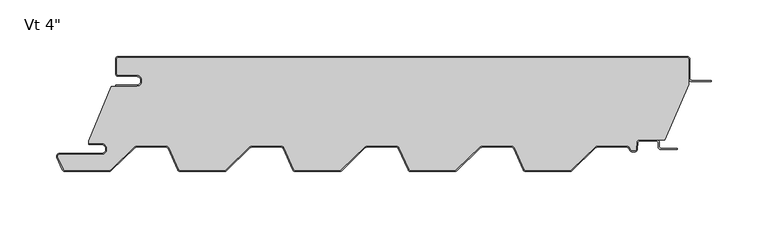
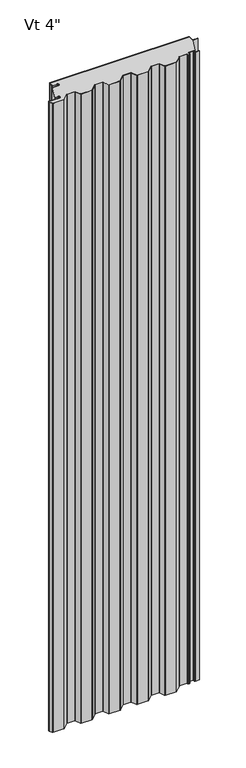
"""IFC4 building model written with IfcOpenShell, lengths in millimetres: plate geometry."""

from ifc_helpers import new_model, si_unit, point, frame_2d, origin, origin_with_axes, place, context, project, spatial, polyline, circle_curve, trimmed, segment, composite_curve, outline, extrude, source, transform, mapped, element, save


def plate_81f33b46(model_context):
    return source(origin(), model_context, "Body", "SweptSolid", [
        extrude(outline(composite_curve([segment(trimmed(circle_curve(frame_2d((-235.0437502, -21.4324412)), 4.96875), [point((-235.0437502, -26.4011912))], [point((-235.0437502, -16.4636912))], True, "CARTESIAN"), True, "CONTINUOUS"), segment(polyline([(-235.0437502, -16.4636912), (-250.9187502, -16.4636912)]), True, "CONTINUOUS"), segment(trimmed(circle_curve(frame_2d((-250.9187502, -15.0824412)), 1.38125), [point((-250.9187502, -16.4636912))], [point((-252.3000002, -15.0824412))], False, "CARTESIAN"), True, "CONTINUOUS"), segment(polyline([(-252.3000002, -15.0824412), (-252.3000002, -2.3824412)]), True, "CONTINUOUS"), segment(trimmed(circle_curve(frame_2d((-250.9187502, -2.3824412)), 1.38125), [point((-252.3000002, -2.3824412))], [point((-250.9187502, -1.0011912))], False, "CARTESIAN"), True, "CONTINUOUS"), segment(polyline([(-250.9187502, -1.0011912), (250.7312498, -1.0011912)]), True, "CONTINUOUS"), segment(trimmed(circle_curve(frame_2d((250.7312498, -2.3824412)), 1.38125), [point((250.7312498, -1.0011912))], [point((252.1124998, -2.3824412))], False, "CARTESIAN"), True, "CONTINUOUS"), segment(polyline([(252.1124998, -2.3824412), (252.1124998, -24.8719682), (231.2955432, -73.6136912), (208.8683456, -73.6136912)]), True, "CONTINUOUS"), segment(trimmed(circle_curve(frame_2d((208.8683456, -76.2011912)), 2.5875), [point((208.8683456, -73.6136912))], [point((206.2843916, -76.0657719))], True, "CARTESIAN"), True, "CONTINUOUS"), segment(polyline([(206.2843916, -76.0657719), (205.9823154, -81.8297302)]), True, "CONTINUOUS"), segment(trimmed(circle_curve(frame_2d((204.6029583, -81.7574412)), 1.38125), [point((205.9823154, -81.8297302))], [point((204.6029583, -83.1386912))], False, "CARTESIAN"), True, "CONTINUOUS"), segment(polyline([(204.6029583, -83.1386912), (202.2754518, -83.1386912)]), True, "CONTINUOUS"), segment(trimmed(circle_curve(frame_2d((202.2754518, -81.7574412)), 1.38125), [point((202.2754518, -83.1386912))], [point((201.0124515, -82.3166208))], False, "CARTESIAN"), True, "CONTINUOUS"), segment(polyline([(201.0124515, -82.3166208), (200.2640304, -80.6261871)]), True, "CONTINUOUS"), segment(trimmed(circle_curve(frame_2d((197.898048, -81.6737)), 2.5875), [point((200.2640304, -80.6261871))], [point((197.898048, -79.0862))], True, "CARTESIAN"), True, "CONTINUOUS"), segment(polyline([(197.898048, -79.0862), (171.3742001, -79.0862)]), True, "CONTINUOUS"), segment(trimmed(circle_curve(frame_2d((171.3742001, -81.6737)), 2.5875), [point((171.3742001, -79.0862))], [point((169.5745494, -79.8145567))], True, "CARTESIAN"), True, "CONTINUOUS"), segment(polyline([(169.5745494, -79.8145567), (148.5036461, -100.2111912)]), True, "CONTINUOUS"), segment(trimmed(circle_curve(frame_2d((147.542963, -99.21875)), 1.38125), [point((148.5036461, -100.2111912))], [point((147.542963, -100.6))], False, "CARTESIAN"), True, "CONTINUOUS"), segment(polyline([(147.542963, -100.6), (108.4062556, -100.6)]), True, "CONTINUOUS"), segment(trimmed(circle_curve(frame_2d((108.4062556, -99.21875)), 1.38125), [point((108.4062556, -100.6))], [point((107.1432553, -99.7779296))], False, "CARTESIAN"), True, "CONTINUOUS"), segment(polyline([(107.1432553, -99.7779296), (98.6640304, -80.6261871)]), True, "CONTINUOUS"), segment(trimmed(circle_curve(frame_2d((96.298048, -81.6737)), 2.5875), [point((98.6640304, -80.6261871))], [point((96.298048, -79.0862))], True, "CARTESIAN"), True, "CONTINUOUS"), segment(polyline([(96.298048, -79.0862), (69.7742001, -79.0862)]), True, "CONTINUOUS"), segment(trimmed(circle_curve(frame_2d((69.7742001, -81.6737)), 2.5875), [point((69.7742001, -79.0862))], [point((67.9745494, -79.8145567))], True, "CARTESIAN"), True, "CONTINUOUS"), segment(polyline([(67.9745494, -79.8145567), (46.9036461, -100.2111912)]), True, "CONTINUOUS"), segment(trimmed(circle_curve(frame_2d((45.942963, -99.21875)), 1.38125), [point((46.9036461, -100.2111912))], [point((45.942963, -100.6))], False, "CARTESIAN"), True, "CONTINUOUS"), segment(polyline([(45.942963, -100.6), (6.8062556, -100.6)]), True, "CONTINUOUS"), segment(trimmed(circle_curve(frame_2d((6.8062556, -99.21875)), 1.38125), [point((6.8062556, -100.6))], [point((5.5432553, -99.7779296))], False, "CARTESIAN"), True, "CONTINUOUS"), segment(polyline([(5.5432553, -99.7779296), (-2.9359696, -80.6261871)]), True, "CONTINUOUS"), segment(trimmed(circle_curve(frame_2d((-5.301952, -81.6737)), 2.5875), [point((-2.9359696, -80.6261871))], [point((-5.301952, -79.0862))], True, "CARTESIAN"), True, "CONTINUOUS"), segment(polyline([(-5.301952, -79.0862), (-31.8257999, -79.0862)]), True, "CONTINUOUS"), segment(trimmed(circle_curve(frame_2d((-31.8257999, -81.6737)), 2.5875), [point((-31.8257999, -79.0862))], [point((-33.6254506, -79.8145567))], True, "CARTESIAN"), True, "CONTINUOUS"), segment(polyline([(-33.6254506, -79.8145567), (-54.6963539, -100.2111912)]), True, "CONTINUOUS"), segment(trimmed(circle_curve(frame_2d((-55.657037, -99.21875)), 1.38125), [point((-54.6963539, -100.2111912))], [point((-55.657037, -100.6))], False, "CARTESIAN"), True, "CONTINUOUS"), segment(polyline([(-55.657037, -100.6), (-94.7937444, -100.6)]), True, "CONTINUOUS"), segment(trimmed(circle_curve(frame_2d((-94.7937444, -99.21875)), 1.38125), [point((-94.7937444, -100.6))], [point((-96.0567447, -99.7779296))], False, "CARTESIAN"), True, "CONTINUOUS"), segment(polyline([(-96.0567447, -99.7779296), (-104.5359696, -80.6261871)]), True, "CONTINUOUS"), segment(trimmed(circle_curve(frame_2d((-106.901952, -81.6737)), 2.5875), [point((-104.5359696, -80.6261871))], [point((-106.901952, -79.0862))], True, "CARTESIAN"), True, "CONTINUOUS"), segment(polyline([(-106.901952, -79.0862), (-133.4257999, -79.0862)]), True, "CONTINUOUS"), segment(trimmed(circle_curve(frame_2d((-133.4257999, -81.6737)), 2.5875), [point((-133.4257999, -79.0862))], [point((-135.2254506, -79.8145567))], True, "CARTESIAN"), True, "CONTINUOUS"), segment(polyline([(-135.2254506, -79.8145567), (-156.2963539, -100.2111912)]), True, "CONTINUOUS"), segment(trimmed(circle_curve(frame_2d((-157.257037, -99.21875)), 1.38125), [point((-156.2963539, -100.2111912))], [point((-157.257037, -100.6))], False, "CARTESIAN"), True, "CONTINUOUS"), segment(polyline([(-157.257037, -100.6), (-196.3937444, -100.6)]), True, "CONTINUOUS"), segment(trimmed(circle_curve(frame_2d((-196.3937444, -99.21875)), 1.38125), [point((-196.3937444, -100.6))], [point((-197.6567447, -99.7779296))], False, "CARTESIAN"), True, "CONTINUOUS"), segment(polyline([(-197.6567447, -99.7779296), (-206.1359696, -80.6261871)]), True, "CONTINUOUS"), segment(trimmed(circle_curve(frame_2d((-208.501952, -81.6737)), 2.5875), [point((-206.1359696, -80.6261871))], [point((-208.501952, -79.0862))], True, "CARTESIAN"), True, "CONTINUOUS"), segment(polyline([(-208.501952, -79.0862), (-235.0257999, -79.0862)]), True, "CONTINUOUS"), segment(trimmed(circle_curve(frame_2d((-235.0257999, -81.6737)), 2.5875), [point((-235.0257999, -79.0862))], [point((-236.8254506, -79.8145567))], True, "CARTESIAN"), True, "CONTINUOUS"), segment(polyline([(-236.8254506, -79.8145567), (-257.6876933, -100.0092077)]), True, "CONTINUOUS"), segment(trimmed(circle_curve(frame_2d((-259.1474447, -98.5012)), 2.0988), [point((-257.6876933, -100.0092077))], [point((-259.1474447, -100.6))], False, "CARTESIAN"), True, "CONTINUOUS"), segment(polyline([(-259.1474447, -100.6), (-297.9937444, -100.6)]), True, "CONTINUOUS"), segment(trimmed(circle_curve(frame_2d((-297.9937444, -99.21875)), 1.38125), [point((-297.9937444, -100.6))], [point((-299.2567447, -99.7779296))], False, "CARTESIAN"), True, "CONTINUOUS"), segment(polyline([(-299.2567447, -99.7779296), (-304.1761554, -88.6666208)]), True, "CONTINUOUS"), segment(trimmed(circle_curve(frame_2d((-302.9131551, -88.1074412)), 1.38125), [point((-304.1761554, -88.6666208))], [point((-302.9131551, -86.7261912))], False, "CARTESIAN"), True, "CONTINUOUS"), segment(polyline([(-302.9131551, -86.7261912), (-266.0000002, -86.7261912)]), True, "CONTINUOUS"), segment(trimmed(circle_curve(frame_2d((-266.0000002, -81.7574412)), 4.96875), [point((-266.0000002, -86.7261912))], [point((-266.0000002, -76.7886912))], True, "CARTESIAN"), True, "CONTINUOUS"), segment(polyline([(-266.0000002, -76.7886912), (-277.1125002, -76.7886912), (-277.1125002, -74.633822), (-257.2914113, -26.4011912), (-235.0437502, -26.4011912)]), True, "CONTINUOUS")], self_intersect=False)), origin_with_axes(), (0.0, 0.0, 1.0), 2400.0),
        extrude(outline(composite_curve([segment(polyline([(-253.3000002, -25.4), (-235.0437502, -25.4)]), True, "CONTINUOUS"), segment(trimmed(circle_curve(frame_2d((-235.0437502, -21.43125)), 3.96875), [point((-235.0437502, -25.4))], [point((-235.0437502, -17.4625))], True, "CARTESIAN"), True, "CONTINUOUS"), segment(polyline([(-235.0437502, -17.4625), (-250.9187502, -17.4625)]), True, "CONTINUOUS"), segment(trimmed(circle_curve(frame_2d((-250.9187502, -15.08125)), 2.38125), [point((-250.9187502, -17.4625))], [point((-253.3000002, -15.08125))], False, "CARTESIAN"), True, "CONTINUOUS"), segment(polyline([(-253.3000002, -15.08125), (-253.3000002, -2.38125)]), True, "CONTINUOUS"), segment(trimmed(circle_curve(frame_2d((-250.9187502, -2.38125)), 2.38125), [point((-253.3000002, -2.38125))], [point((-250.9187502, 0.0))], False, "CARTESIAN"), True, "CONTINUOUS"), segment(polyline([(-250.9187502, 0.0), (250.7312498, 0.0)]), True, "CONTINUOUS"), segment(trimmed(circle_curve(frame_2d((250.7312498, -2.38125)), 2.38125), [point((250.7312498, 0.0))], [point((253.1124998, -2.38125))], False, "CARTESIAN"), True, "CONTINUOUS"), segment(polyline([(253.1124998, -2.38125), (253.1124998, -19.446875)]), True, "CONTINUOUS"), segment(trimmed(circle_curve(frame_2d((254.6999998, -19.446875)), 1.5875), [point((253.1124998, -19.446875))], [point((254.6999998, -21.034375))], True, "CARTESIAN"), True, "CONTINUOUS"), segment(polyline([(254.6999998, -21.034375), (272.1624998, -21.034375), (272.1624998, -22.034375), (254.6999998, -22.034375)]), True, "CONTINUOUS"), segment(trimmed(circle_curve(frame_2d((254.6999998, -19.446875)), 2.5875), [point((254.6999998, -22.034375))], [point((252.1124998, -19.446875))], False, "CARTESIAN"), True, "CONTINUOUS"), segment(polyline([(252.1124998, -19.446875), (252.1124998, -2.38125)]), True, "CONTINUOUS"), segment(trimmed(circle_curve(frame_2d((250.7312498, -2.38125)), 1.38125), [point((252.1124998, -2.38125))], [point((250.7312498, -1.0))], True, "CARTESIAN"), True, "CONTINUOUS"), segment(polyline([(250.7312498, -1.0), (-250.9187502, -1.0)]), True, "CONTINUOUS"), segment(trimmed(circle_curve(frame_2d((-250.9187502, -2.38125)), 1.38125), [point((-250.9187502, -1.0))], [point((-252.3000002, -2.38125))], True, "CARTESIAN"), True, "CONTINUOUS"), segment(polyline([(-252.3000002, -2.38125), (-252.3000002, -15.08125)]), True, "CONTINUOUS"), segment(trimmed(circle_curve(frame_2d((-250.9187502, -15.08125)), 1.38125), [point((-252.3000002, -15.08125))], [point((-250.9187502, -16.4625))], True, "CARTESIAN"), True, "CONTINUOUS"), segment(polyline([(-250.9187502, -16.4625), (-235.0437502, -16.4625)]), True, "CONTINUOUS"), segment(trimmed(circle_curve(frame_2d((-235.0437502, -21.43125)), 4.96875), [point((-235.0437502, -16.4625))], [point((-235.0437502, -26.4))], False, "CARTESIAN"), True, "CONTINUOUS"), segment(polyline([(-235.0437502, -26.4), (-253.3000002, -26.4), (-253.3000002, -25.4)]), True, "CONTINUOUS")], self_intersect=False)), origin_with_axes(), (0.0, 0.0, 1.0), 2400.0),
        extrude(outline(composite_curve([segment(trimmed(circle_curve(frame_2d((-266.0000002, -81.7574412)), 3.96875), [point((-266.0000002, -85.7261912))], [point((-266.0000002, -77.7886912))], True, "CARTESIAN"), True, "CONTINUOUS"), segment(polyline([(-266.0000002, -77.7886912), (-277.1125002, -77.7886912), (-277.1125002, -76.7886912), (-266.0000002, -76.7886912)]), True, "CONTINUOUS"), segment(trimmed(circle_curve(frame_2d((-266.0000002, -81.7574412)), 4.96875), [point((-266.0000002, -76.7886912))], [point((-266.0000002, -86.7261912))], False, "CARTESIAN"), True, "CONTINUOUS"), segment(polyline([(-266.0000002, -86.7261912), (-302.9131551, -86.7261912)]), True, "CONTINUOUS"), segment(trimmed(circle_curve(frame_2d((-302.9131551, -88.1074412)), 1.38125), [point((-302.9131551, -86.7261912))], [point((-304.1761554, -88.6666208))], True, "CARTESIAN"), True, "CONTINUOUS"), segment(polyline([(-304.1761554, -88.6666208), (-299.2567447, -99.7779296)]), True, "CONTINUOUS"), segment(trimmed(circle_curve(frame_2d((-297.9937444, -99.21875)), 1.38125), [point((-299.2567447, -99.7779296))], [point((-297.9937444, -100.6))], True, "CARTESIAN"), True, "CONTINUOUS"), segment(polyline([(-297.9937444, -100.6), (-259.1474447, -100.6)]), True, "CONTINUOUS"), segment(trimmed(circle_curve(frame_2d((-259.1474447, -98.5012)), 2.0988), [point((-259.1474447, -100.6))], [point((-257.6876933, -100.0092077))], True, "CARTESIAN"), True, "CONTINUOUS"), segment(polyline([(-257.6876933, -100.0092077), (-236.8254506, -79.8145567)]), True, "CONTINUOUS"), segment(trimmed(circle_curve(frame_2d((-235.0257999, -81.6737)), 2.5875), [point((-236.8254506, -79.8145567))], [point((-235.0257999, -79.0862))], False, "CARTESIAN"), True, "CONTINUOUS"), segment(polyline([(-235.0257999, -79.0862), (-208.501952, -79.0862)]), True, "CONTINUOUS"), segment(trimmed(circle_curve(frame_2d((-208.501952, -81.6737)), 2.5875), [point((-208.501952, -79.0862))], [point((-206.1359696, -80.6261871))], False, "CARTESIAN"), True, "CONTINUOUS"), segment(polyline([(-206.1359696, -80.6261871), (-197.6567447, -99.7779296)]), True, "CONTINUOUS"), segment(trimmed(circle_curve(frame_2d((-196.3937444, -99.21875)), 1.38125), [point((-197.6567447, -99.7779296))], [point((-196.3937444, -100.6))], True, "CARTESIAN"), True, "CONTINUOUS"), segment(polyline([(-196.3937444, -100.6), (-157.257037, -100.6)]), True, "CONTINUOUS"), segment(trimmed(circle_curve(frame_2d((-157.257037, -99.21875)), 1.38125), [point((-157.257037, -100.6))], [point((-156.2963539, -100.2111912))], True, "CARTESIAN"), True, "CONTINUOUS"), segment(polyline([(-156.2963539, -100.2111912), (-135.2254506, -79.8145567)]), True, "CONTINUOUS"), segment(trimmed(circle_curve(frame_2d((-133.4257999, -81.6737)), 2.5875), [point((-135.2254506, -79.8145567))], [point((-133.4257999, -79.0862))], False, "CARTESIAN"), True, "CONTINUOUS"), segment(polyline([(-133.4257999, -79.0862), (-106.901952, -79.0862)]), True, "CONTINUOUS"), segment(trimmed(circle_curve(frame_2d((-106.901952, -81.6737)), 2.5875), [point((-106.901952, -79.0862))], [point((-104.5359696, -80.6261871))], False, "CARTESIAN"), True, "CONTINUOUS"), segment(polyline([(-104.5359696, -80.6261871), (-96.0567447, -99.7779296)]), True, "CONTINUOUS"), segment(trimmed(circle_curve(frame_2d((-94.7937444, -99.21875)), 1.38125), [point((-96.0567447, -99.7779296))], [point((-94.7937444, -100.6))], True, "CARTESIAN"), True, "CONTINUOUS"), segment(polyline([(-94.7937444, -100.6), (-55.657037, -100.6)]), True, "CONTINUOUS"), segment(trimmed(circle_curve(frame_2d((-55.657037, -99.21875)), 1.38125), [point((-55.657037, -100.6))], [point((-54.6963539, -100.2111912))], True, "CARTESIAN"), True, "CONTINUOUS"), segment(polyline([(-54.6963539, -100.2111912), (-33.6254506, -79.8145567)]), True, "CONTINUOUS"), segment(trimmed(circle_curve(frame_2d((-31.8257999, -81.6737)), 2.5875), [point((-33.6254506, -79.8145567))], [point((-31.8257999, -79.0862))], False, "CARTESIAN"), True, "CONTINUOUS"), segment(polyline([(-31.8257999, -79.0862), (-5.301952, -79.0862)]), True, "CONTINUOUS"), segment(trimmed(circle_curve(frame_2d((-5.301952, -81.6737)), 2.5875), [point((-5.301952, -79.0862))], [point((-2.9359696, -80.6261871))], False, "CARTESIAN"), True, "CONTINUOUS"), segment(polyline([(-2.9359696, -80.6261871), (5.5432553, -99.7779296)]), True, "CONTINUOUS"), segment(trimmed(circle_curve(frame_2d((6.8062556, -99.21875)), 1.38125), [point((5.5432553, -99.7779296))], [point((6.8062556, -100.6))], True, "CARTESIAN"), True, "CONTINUOUS"), segment(polyline([(6.8062556, -100.6), (45.942963, -100.6)]), True, "CONTINUOUS"), segment(trimmed(circle_curve(frame_2d((45.942963, -99.21875)), 1.38125), [point((45.942963, -100.6))], [point((46.9036461, -100.2111912))], True, "CARTESIAN"), True, "CONTINUOUS"), segment(polyline([(46.9036461, -100.2111912), (67.9745494, -79.8145567)]), True, "CONTINUOUS"), segment(trimmed(circle_curve(frame_2d((69.7742001, -81.6737)), 2.5875), [point((67.9745494, -79.8145567))], [point((69.7742001, -79.0862))], False, "CARTESIAN"), True, "CONTINUOUS"), segment(polyline([(69.7742001, -79.0862), (96.298048, -79.0862)]), True, "CONTINUOUS"), segment(trimmed(circle_curve(frame_2d((96.298048, -81.6737)), 2.5875), [point((96.298048, -79.0862))], [point((98.6640304, -80.6261871))], False, "CARTESIAN"), True, "CONTINUOUS"), segment(polyline([(98.6640304, -80.6261871), (107.1432553, -99.7779296)]), True, "CONTINUOUS"), segment(trimmed(circle_curve(frame_2d((108.4062556, -99.21875)), 1.38125), [point((107.1432553, -99.7779296))], [point((108.4062556, -100.6))], True, "CARTESIAN"), True, "CONTINUOUS"), segment(polyline([(108.4062556, -100.6), (147.542963, -100.6)]), True, "CONTINUOUS"), segment(trimmed(circle_curve(frame_2d((147.542963, -99.21875)), 1.38125), [point((147.542963, -100.6))], [point((148.5036461, -100.2111912))], True, "CARTESIAN"), True, "CONTINUOUS"), segment(polyline([(148.5036461, -100.2111912), (169.5745494, -79.8145567)]), True, "CONTINUOUS"), segment(trimmed(circle_curve(frame_2d((171.3742001, -81.6737)), 2.5875), [point((169.5745494, -79.8145567))], [point((171.3742001, -79.0862))], False, "CARTESIAN"), True, "CONTINUOUS"), segment(polyline([(171.3742001, -79.0862), (197.898048, -79.0862)]), True, "CONTINUOUS"), segment(trimmed(circle_curve(frame_2d((197.898048, -81.6737)), 2.5875), [point((197.898048, -79.0862))], [point((200.2640304, -80.6261871))], False, "CARTESIAN"), True, "CONTINUOUS"), segment(polyline([(200.2640304, -80.6261871), (201.0124515, -82.3166208)]), True, "CONTINUOUS"), segment(trimmed(circle_curve(frame_2d((202.2754518, -81.7574412)), 1.38125), [point((201.0124515, -82.3166208))], [point((202.2754518, -83.1386912))], True, "CARTESIAN"), True, "CONTINUOUS"), segment(polyline([(202.2754518, -83.1386912), (204.6029583, -83.1386912)]), True, "CONTINUOUS"), segment(trimmed(circle_curve(frame_2d((204.6029583, -81.7574412)), 1.38125), [point((204.6029583, -83.1386912))], [point((205.9823154, -81.8297302))], True, "CARTESIAN"), True, "CONTINUOUS"), segment(polyline([(205.9823154, -81.8297302), (206.2843916, -76.0657719)]), True, "CONTINUOUS"), segment(trimmed(circle_curve(frame_2d((208.8683456, -76.2011912)), 2.5875), [point((206.2843916, -76.0657719))], [point((208.8683456, -73.6136912))], False, "CARTESIAN"), True, "CONTINUOUS"), segment(polyline([(208.8683456, -73.6136912), (223.7437498, -73.6136912)]), True, "CONTINUOUS"), segment(trimmed(circle_curve(frame_2d((223.7437498, -76.2011912)), 2.5875), [point((223.7437498, -73.6136912))], [point((226.3312498, -76.2011912))], False, "CARTESIAN"), True, "CONTINUOUS"), segment(polyline([(226.3312498, -76.2011912), (226.3312498, -79.7730662)]), True, "CONTINUOUS"), segment(trimmed(circle_curve(frame_2d((227.7124998, -79.7730662)), 1.38125), [point((226.3312498, -79.7730662))], [point((227.7124998, -81.1543162))], True, "CARTESIAN"), True, "CONTINUOUS"), segment(polyline([(227.7124998, -81.1543162), (241.9999998, -81.1543162), (241.9999998, -82.1543162), (227.7124998, -82.1543162)]), True, "CONTINUOUS"), segment(trimmed(circle_curve(frame_2d((227.7124998, -79.7730662)), 2.38125), [point((227.7124998, -82.1543162))], [point((225.3312498, -79.7730662))], False, "CARTESIAN"), True, "CONTINUOUS"), segment(polyline([(225.3312498, -79.7730662), (225.3312498, -76.2011912)]), True, "CONTINUOUS"), segment(trimmed(circle_curve(frame_2d((223.7437498, -76.2011912)), 1.5875), [point((225.3312498, -76.2011912))], [point((223.7437498, -74.6136912))], True, "CARTESIAN"), True, "CONTINUOUS"), segment(polyline([(223.7437498, -74.6136912), (208.8683456, -74.6136912)]), True, "CONTINUOUS"), segment(trimmed(circle_curve(frame_2d((208.8683456, -76.2011912)), 1.5875), [point((208.8683456, -74.6136912))], [point((207.2830212, -76.1181078))], True, "CARTESIAN"), True, "CONTINUOUS"), segment(polyline([(207.2830212, -76.1181078), (206.9809449, -81.8820662)]), True, "CONTINUOUS"), segment(trimmed(circle_curve(frame_2d((204.6029583, -81.7574412)), 2.38125), [point((206.9809449, -81.8820662))], [point((204.6029583, -84.1386912))], False, "CARTESIAN"), True, "CONTINUOUS"), segment(polyline([(204.6029583, -84.1386912), (202.2754518, -84.1386912)]), True, "CONTINUOUS"), segment(trimmed(circle_curve(frame_2d((202.2754518, -81.7574412)), 2.38125), [point((202.2754518, -84.1386912))], [point((200.0980621, -82.7214567))], False, "CARTESIAN"), True, "CONTINUOUS"), segment(polyline([(200.0980621, -82.7214567), (199.3496411, -81.031023)]), True, "CONTINUOUS"), segment(trimmed(circle_curve(frame_2d((197.898048, -81.6737)), 1.5875), [point((199.3496411, -81.031023))], [point((197.898048, -80.0862))], True, "CARTESIAN"), True, "CONTINUOUS"), segment(polyline([(197.898048, -80.0862), (171.3742001, -80.0862)]), True, "CONTINUOUS"), segment(trimmed(circle_curve(frame_2d((171.3742001, -81.6737)), 1.5875), [point((171.3742001, -80.0862))], [point((170.2700666, -80.5330662))], True, "CARTESIAN"), True, "CONTINUOUS"), segment(polyline([(170.2700666, -80.5330662), (149.1991632, -100.9297007)]), True, "CONTINUOUS"), segment(trimmed(circle_curve(frame_2d((147.542963, -99.21875)), 2.38125), [point((149.1991632, -100.9297007))], [point((147.542963, -101.6))], False, "CARTESIAN"), True, "CONTINUOUS"), segment(polyline([(147.542963, -101.6), (108.4062556, -101.6)]), True, "CONTINUOUS"), segment(trimmed(circle_curve(frame_2d((108.4062556, -99.21875)), 2.38125), [point((108.4062556, -101.6))], [point((106.2288659, -100.1827655))], False, "CARTESIAN"), True, "CONTINUOUS"), segment(polyline([(106.2288659, -100.1827655), (97.7496411, -81.031023)]), True, "CONTINUOUS"), segment(trimmed(circle_curve(frame_2d((96.298048, -81.6737)), 1.5875), [point((97.7496411, -81.031023))], [point((96.298048, -80.0862))], True, "CARTESIAN"), True, "CONTINUOUS"), segment(polyline([(96.298048, -80.0862), (69.7742001, -80.0862)]), True, "CONTINUOUS"), segment(trimmed(circle_curve(frame_2d((69.7742001, -81.6737)), 1.5875), [point((69.7742001, -80.0862))], [point((68.6700666, -80.5330662))], True, "CARTESIAN"), True, "CONTINUOUS"), segment(polyline([(68.6700666, -80.5330662), (47.5991632, -100.9297007)]), True, "CONTINUOUS"), segment(trimmed(circle_curve(frame_2d((45.942963, -99.21875)), 2.38125), [point((47.5991632, -100.9297007))], [point((45.942963, -101.6))], False, "CARTESIAN"), True, "CONTINUOUS"), segment(polyline([(45.942963, -101.6), (6.8062556, -101.6)]), True, "CONTINUOUS"), segment(trimmed(circle_curve(frame_2d((6.8062556, -99.21875)), 2.38125), [point((6.8062556, -101.6))], [point((4.6288659, -100.1827655))], False, "CARTESIAN"), True, "CONTINUOUS"), segment(polyline([(4.6288659, -100.1827655), (-3.8503589, -81.031023)]), True, "CONTINUOUS"), segment(trimmed(circle_curve(frame_2d((-5.301952, -81.6737)), 1.5875), [point((-3.8503589, -81.031023))], [point((-5.301952, -80.0862))], True, "CARTESIAN"), True, "CONTINUOUS"), segment(polyline([(-5.301952, -80.0862), (-31.8257999, -80.0862)]), True, "CONTINUOUS"), segment(trimmed(circle_curve(frame_2d((-31.8257999, -81.6737)), 1.5875), [point((-31.8257999, -80.0862))], [point((-32.9299334, -80.5330662))], True, "CARTESIAN"), True, "CONTINUOUS"), segment(polyline([(-32.9299334, -80.5330662), (-54.0008368, -100.9297007)]), True, "CONTINUOUS"), segment(trimmed(circle_curve(frame_2d((-55.657037, -99.21875)), 2.38125), [point((-54.0008368, -100.9297007))], [point((-55.657037, -101.6))], False, "CARTESIAN"), True, "CONTINUOUS"), segment(polyline([(-55.657037, -101.6), (-94.7937444, -101.6)]), True, "CONTINUOUS"), segment(trimmed(circle_curve(frame_2d((-94.7937444, -99.21875)), 2.38125), [point((-94.7937444, -101.6))], [point((-96.9711341, -100.1827655))], False, "CARTESIAN"), True, "CONTINUOUS"), segment(polyline([(-96.9711341, -100.1827655), (-105.4503589, -81.031023)]), True, "CONTINUOUS"), segment(trimmed(circle_curve(frame_2d((-106.901952, -81.6737)), 1.5875), [point((-105.4503589, -81.031023))], [point((-106.901952, -80.0862))], True, "CARTESIAN"), True, "CONTINUOUS"), segment(polyline([(-106.901952, -80.0862), (-133.4257999, -80.0862)]), True, "CONTINUOUS"), segment(trimmed(circle_curve(frame_2d((-133.4257999, -81.6737)), 1.5875), [point((-133.4257999, -80.0862))], [point((-134.5299334, -80.5330662))], True, "CARTESIAN"), True, "CONTINUOUS"), segment(polyline([(-134.5299334, -80.5330662), (-155.6008368, -100.9297007)]), True, "CONTINUOUS"), segment(trimmed(circle_curve(frame_2d((-157.257037, -99.21875)), 2.38125), [point((-155.6008368, -100.9297007))], [point((-157.257037, -101.6))], False, "CARTESIAN"), True, "CONTINUOUS"), segment(polyline([(-157.257037, -101.6), (-196.3937444, -101.6)]), True, "CONTINUOUS"), segment(trimmed(circle_curve(frame_2d((-196.3937444, -99.21875)), 2.38125), [point((-196.3937444, -101.6))], [point((-198.5711341, -100.1827655))], False, "CARTESIAN"), True, "CONTINUOUS"), segment(polyline([(-198.5711341, -100.1827655), (-207.0503589, -81.031023)]), True, "CONTINUOUS"), segment(trimmed(circle_curve(frame_2d((-208.501952, -81.6737)), 1.5875), [point((-207.0503589, -81.031023))], [point((-208.501952, -80.0862))], True, "CARTESIAN"), True, "CONTINUOUS"), segment(polyline([(-208.501952, -80.0862), (-235.0257999, -80.0862)]), True, "CONTINUOUS"), segment(trimmed(circle_curve(frame_2d((-235.0257999, -81.6737)), 1.5875), [point((-235.0257999, -80.0862))], [point((-236.1299334, -80.5330662))], True, "CARTESIAN"), True, "CONTINUOUS"), segment(polyline([(-236.1299334, -80.5330662), (-256.9921761, -100.7277172)]), True, "CONTINUOUS"), segment(trimmed(circle_curve(frame_2d((-259.1474447, -98.5012)), 3.0988), [point((-256.9921761, -100.7277172))], [point((-259.1474447, -101.6))], False, "CARTESIAN"), True, "CONTINUOUS"), segment(polyline([(-259.1474447, -101.6), (-297.9937444, -101.6)]), True, "CONTINUOUS"), segment(trimmed(circle_curve(frame_2d((-297.9937444, -99.21875)), 2.38125), [point((-297.9937444, -101.6))], [point((-300.1711341, -100.1827655))], False, "CARTESIAN"), True, "CONTINUOUS"), segment(polyline([(-300.1711341, -100.1827655), (-305.0905447, -89.0714567)]), True, "CONTINUOUS"), segment(trimmed(circle_curve(frame_2d((-302.9131551, -88.1074412)), 2.38125), [point((-305.0905447, -89.0714567))], [point((-302.9131551, -85.7261912))], False, "CARTESIAN"), True, "CONTINUOUS"), segment(polyline([(-302.9131551, -85.7261912), (-266.0000002, -85.7261912)]), True, "CONTINUOUS")], self_intersect=False)), origin_with_axes(), (0.0, 0.0, 1.0), 2400.0),
    ])


if __name__ == "__main__":
    model = new_model("IFC4")
    model_context = context("Model", 3, world=origin())
    ifc_project = project(units=[si_unit("LENGTHUNIT", "METRE", prefix="MILLI")], contexts=[model_context])
    site = spatial("IfcSite", under=ifc_project)
    building = spatial("IfcBuilding", under=site)
    placement = place(None, origin())
    plate_shape = plate_81f33b46(model_context)
    element("IfcPlate", 1, ObjectType="KIP-20-DWR-R19-CP-Vt-S : Vt 4\"", at=placement, inside=building, context=model_context, shape_type="MappedRepresentation", body=[
        mapped(plate_shape, transform((0.0, 0.0, 0.0), x_axis=(1.0, 0.0, 0.0), y_axis=(0.0, 1.0, 0.0), z_axis=(0.0, 0.0, 1.0))),
    ])
    save(model, "model.ifc")
